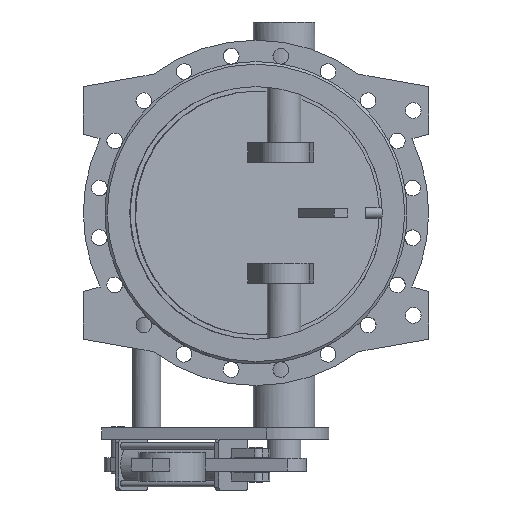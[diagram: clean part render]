
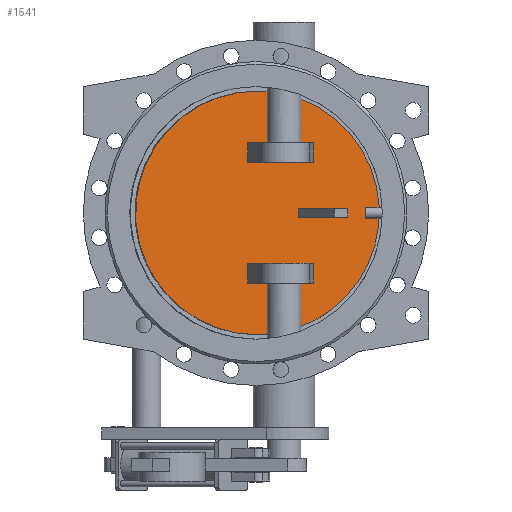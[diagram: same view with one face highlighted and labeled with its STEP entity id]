
A CAD part, front view. The second image highlights one B-rep face of the part: STEP entity #1541.
In plain terms, the highlighted planar face has unit normal (0.131, -0.991, 0).
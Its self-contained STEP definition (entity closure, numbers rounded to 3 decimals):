
#1541=ADVANCED_FACE('',(#3404,#3406,#3408,#3410),#3412,.T.);
#3404=FACE_BOUND('',#3405,.T.);
#3405=EDGE_LOOP('',(#4799));
#3406=FACE_BOUND('',#3407,.T.);
#3407=EDGE_LOOP('',(#4800,#4801,#4802,#4803));
#3408=FACE_BOUND('',#3409,.T.);
#3409=EDGE_LOOP('',(#4804,#4805,#4806,#4807));
#3410=FACE_BOUND('',#3411,.T.);
#3411=EDGE_LOOP('',(#4808,#4809,#4810,#4811));
#3412=PLANE('',#3413);
#3413=AXIS2_PLACEMENT_3D('',#3414,#3415,#3416);
#3414=CARTESIAN_POINT('',(-1.272,9.66,0.));
#3415=DIRECTION('',(0.131,-0.991,0.));
#3416=DIRECTION('',(0.,0.,-1.));
#4799=ORIENTED_EDGE('',*,*,#5427,.T.);
#4800=ORIENTED_EDGE('',*,*,#5451,.F.);
#4801=ORIENTED_EDGE('',*,*,#5452,.F.);
#4802=ORIENTED_EDGE('',*,*,#5453,.F.);
#4803=ORIENTED_EDGE('',*,*,#5454,.F.);
#4804=ORIENTED_EDGE('',*,*,#5455,.F.);
#4805=ORIENTED_EDGE('',*,*,#5456,.F.);
#4806=ORIENTED_EDGE('',*,*,#5457,.F.);
#4807=ORIENTED_EDGE('',*,*,#5458,.F.);
#4808=ORIENTED_EDGE('',*,*,#5459,.F.);
#4809=ORIENTED_EDGE('',*,*,#5460,.F.);
#4810=ORIENTED_EDGE('',*,*,#5461,.F.);
#4811=ORIENTED_EDGE('',*,*,#5462,.F.);
#5427=EDGE_CURVE('',#6345,#6345,#6346,.T.);
#5451=EDGE_CURVE('',#6387,#6388,#6389,.T.);
#5452=EDGE_CURVE('',#6390,#6387,#6391,.F.);
#5453=EDGE_CURVE('',#6392,#6390,#6393,.T.);
#5454=EDGE_CURVE('',#6388,#6392,#6394,.T.);
#5455=EDGE_CURVE('',#6395,#6396,#6397,.F.);
#5456=EDGE_CURVE('',#6398,#6395,#6399,.T.);
#5457=EDGE_CURVE('',#6400,#6398,#6401,.T.);
#5458=EDGE_CURVE('',#6396,#6400,#6402,.T.);
#5459=EDGE_CURVE('',#6403,#6404,#6405,.T.);
#5460=EDGE_CURVE('',#6406,#6403,#6407,.F.);
#5461=EDGE_CURVE('',#6408,#6406,#6409,.F.);
#5462=EDGE_CURVE('',#6404,#6408,#6410,.F.);
#6345=VERTEX_POINT('',#11131);
#6346=B_SPLINE_CURVE_WITH_KNOTS('',3,
(#11132,#11133,#11134,#11135,#11136,#11137,#11138,#11139,#11140,#11141,#11142,#11143,
#11144,#11145,#11146,#11147,#11148,#11149,#11150,#11151,#11152,#11153,#11154,#11155,
#11156,#11157,#11158,#11159,#11160,#11161,#11162,#11163,#11164,#11165,#11166,#11167,
#11168,#11169,#11170,#11171,#11172,#11173,#11174,#11175,#11176,#11177,#11178,#11179,
#11180,#11181,#11182),
.UNSPECIFIED.,.T.,.F.,
(4,1,1,1,1,1,1,1,1,1,1,1,1,1,1,1,1,1,1,1,1,1,1,1,1,1,1,1,1,1,1,1,1,1,1,1,1,1,1,1,
1,1,1,1,1,1,1,1,4),
(0.,0.021,0.042,0.063,0.084,
0.105,0.126,0.147,0.168,0.189,
0.211,0.232,0.253,0.274,0.295,
0.316,0.337,0.358,0.379,0.4,
0.421,0.442,0.463,0.484,0.505,
0.526,0.548,0.569,0.59,0.611,
0.632,0.653,0.674,0.695,0.716,
0.737,0.758,0.779,0.8,0.821,
0.843,0.864,0.885,0.906,0.927,
0.948,0.969,0.986,1.),
.UNSPECIFIED.);
#6387=VERTEX_POINT('',#11703);
#6388=VERTEX_POINT('',#11704);
#6389=LINE('',#11705,#11706);
#6390=VERTEX_POINT('',#11708);
#6391=LINE('',#11709,#11710);
#6392=VERTEX_POINT('',#11712);
#6393=LINE('',#11713,#11714);
#6394=LINE('',#11716,#11717);
#6395=VERTEX_POINT('',#11719);
#6396=VERTEX_POINT('',#11720);
#6397=LINE('',#11721,#11722);
#6398=VERTEX_POINT('',#11724);
#6399=LINE('',#11725,#11726);
#6400=VERTEX_POINT('',#11728);
#6401=LINE('',#11729,#11730);
#6402=LINE('',#11732,#11733);
#6403=VERTEX_POINT('',#11735);
#6404=VERTEX_POINT('',#11736);
#6405=LINE('',#11737,#11738);
#6406=VERTEX_POINT('',#11740);
#6407=LINE('',#11741,#11742);
#6408=VERTEX_POINT('',#11744);
#6409=LINE('',#11745,#11746);
#6410=LINE('',#11748,#11749);
#11131=CARTESIAN_POINT('',(2.611,10.171,217.));
#11132=CARTESIAN_POINT('',(2.611,10.171,217.));
#11133=CARTESIAN_POINT('',(-6.922,8.916,217.));
#11134=CARTESIAN_POINT('',(-26.011,6.403,215.741));
#11135=CARTESIAN_POINT('',(-54.183,2.694,210.097));
#11136=CARTESIAN_POINT('',(-81.405,-0.89,200.775));
#11137=CARTESIAN_POINT('',(-107.176,-4.283,187.934));
#11138=CARTESIAN_POINT('',(-131.024,-7.422,171.808));
#11139=CARTESIAN_POINT('',(-152.536,-10.254,152.674));
#11140=CARTESIAN_POINT('',(-171.335,-12.729,130.87));
#11141=CARTESIAN_POINT('',(-187.091,-14.804,106.775));
#11142=CARTESIAN_POINT('',(-199.529,-16.441,80.811));
#11143=CARTESIAN_POINT('',(-208.43,-17.613,53.432));
#11144=CARTESIAN_POINT('',(-213.638,-18.299,25.117));
#11145=CARTESIAN_POINT('',(-215.062,-18.486,-3.636));
#11146=CARTESIAN_POINT('',(-212.678,-18.172,-32.326));
#11147=CARTESIAN_POINT('',(-206.527,-17.362,-60.448));
#11148=CARTESIAN_POINT('',(-196.717,-16.071,-87.512));
#11149=CARTESIAN_POINT('',(-183.421,-14.32,-113.044));
#11150=CARTESIAN_POINT('',(-166.872,-12.142,-136.597));
#11151=CARTESIAN_POINT('',(-147.358,-9.573,-157.76));
#11152=CARTESIAN_POINT('',(-125.223,-6.659,-176.163));
#11153=CARTESIAN_POINT('',(-100.852,-3.45,-191.486));
#11154=CARTESIAN_POINT('',(-74.672,-0.003,-203.46));
#11155=CARTESIAN_POINT('',(-47.14,3.621,-211.875));
#11156=CARTESIAN_POINT('',(-18.738,7.361,-216.585));
#11157=CARTESIAN_POINT('',(10.038,11.149,-217.508));
#11158=CARTESIAN_POINT('',(38.685,14.92,-214.626));
#11159=CARTESIAN_POINT('',(66.7,18.609,-207.99));
#11160=CARTESIAN_POINT('',(93.595,22.149,-197.716));
#11161=CARTESIAN_POINT('',(118.9,25.481,-183.984));
#11162=CARTESIAN_POINT('',(142.17,28.544,-167.033));
#11163=CARTESIAN_POINT('',(163.,31.287,-147.16));
#11164=CARTESIAN_POINT('',(181.025,33.66,-124.712));
#11165=CARTESIAN_POINT('',(195.93,35.622,-100.08));
#11166=CARTESIAN_POINT('',(207.452,37.139,-73.697));
#11167=CARTESIAN_POINT('',(215.39,38.184,-46.024));
#11168=CARTESIAN_POINT('',(219.605,38.739,-17.545));
#11169=CARTESIAN_POINT('',(220.023,38.794,11.241));
#11170=CARTESIAN_POINT('',(216.637,38.348,39.829));
#11171=CARTESIAN_POINT('',(209.506,37.409,67.719));
#11172=CARTESIAN_POINT('',(198.757,35.994,94.423));
#11173=CARTESIAN_POINT('',(184.576,34.127,119.474));
#11174=CARTESIAN_POINT('',(167.214,31.842,142.434));
#11175=CARTESIAN_POINT('',(146.972,29.177,162.904));
#11176=CARTESIAN_POINT('',(124.212,26.18,180.518));
#11177=CARTESIAN_POINT('',(99.359,22.908,194.959));
#11178=CARTESIAN_POINT('',(72.772,19.408,206.023));
#11179=CARTESIAN_POINT('',(46.552,15.956,213.053));
#11180=CARTESIAN_POINT('',(22.979,12.853,216.391));
#11181=CARTESIAN_POINT('',(8.836,10.991,217.));
#11182=CARTESIAN_POINT('',(2.611,10.171,217.));
#11703=CARTESIAN_POINT('',(149.358,29.491,-7.5));
#11704=CARTESIAN_POINT('',(149.358,29.491,7.5));
#11705=CARTESIAN_POINT('',(149.358,29.491,-7.5));
#11706=VECTOR('',#11707,1.);
#11707=DIRECTION('',(0.,0.,1.));
#11708=CARTESIAN_POINT('',(75.,19.701,-7.5));
#11709=CARTESIAN_POINT('',(149.358,29.491,-7.5));
#11710=VECTOR('',#11711,1.);
#11711=DIRECTION('',(-0.991,-0.131,0.));
#11712=CARTESIAN_POINT('',(75.,19.701,7.5));
#11713=CARTESIAN_POINT('',(75.,19.701,7.5));
#11714=VECTOR('',#11715,1.);
#11715=DIRECTION('',(0.,0.,-1.));
#11716=CARTESIAN_POINT('',(149.358,29.491,7.5));
#11717=VECTOR('',#11718,1.);
#11718=DIRECTION('',(-0.991,-0.131,0.));
#11719=CARTESIAN_POINT('',(-14.418,7.929,-125.));
#11720=CARTESIAN_POINT('',(102.407,23.31,-125.));
#11721=CARTESIAN_POINT('',(102.407,23.31,-125.));
#11722=VECTOR('',#11723,1.);
#11723=DIRECTION('',(-0.991,-0.131,0.));
#11724=CARTESIAN_POINT('',(-14.418,7.929,-90.));
#11725=CARTESIAN_POINT('',(-14.418,7.929,-90.));
#11726=VECTOR('',#11727,1.);
#11727=DIRECTION('',(0.,0.,-1.));
#11728=CARTESIAN_POINT('',(102.407,23.31,-90.));
#11729=CARTESIAN_POINT('',(102.407,23.31,-90.));
#11730=VECTOR('',#11731,1.);
#11731=DIRECTION('',(-0.991,-0.131,0.));
#11732=CARTESIAN_POINT('',(102.407,23.31,-125.));
#11733=VECTOR('',#11734,1.);
#11734=DIRECTION('',(0.,0.,1.));
#11735=CARTESIAN_POINT('',(102.407,23.31,125.));
#11736=CARTESIAN_POINT('',(-14.418,7.929,125.));
#11737=CARTESIAN_POINT('',(102.407,23.31,125.));
#11738=VECTOR('',#11739,1.);
#11739=DIRECTION('',(-0.991,-0.131,0.));
#11740=CARTESIAN_POINT('',(102.407,23.31,90.));
#11741=CARTESIAN_POINT('',(102.407,23.31,125.));
#11742=VECTOR('',#11743,1.);
#11743=DIRECTION('',(0.,0.,-1.));
#11744=CARTESIAN_POINT('',(-14.418,7.929,90.));
#11745=CARTESIAN_POINT('',(102.407,23.31,90.));
#11746=VECTOR('',#11747,1.);
#11747=DIRECTION('',(-0.991,-0.131,0.));
#11748=CARTESIAN_POINT('',(-14.418,7.929,90.));
#11749=VECTOR('',#11750,1.);
#11750=DIRECTION('',(0.,0.,1.));
